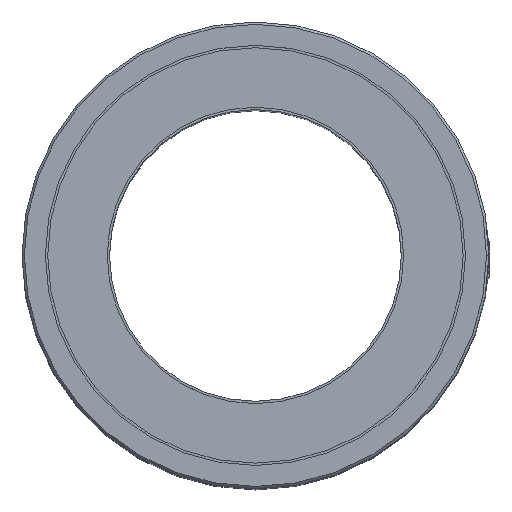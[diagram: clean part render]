
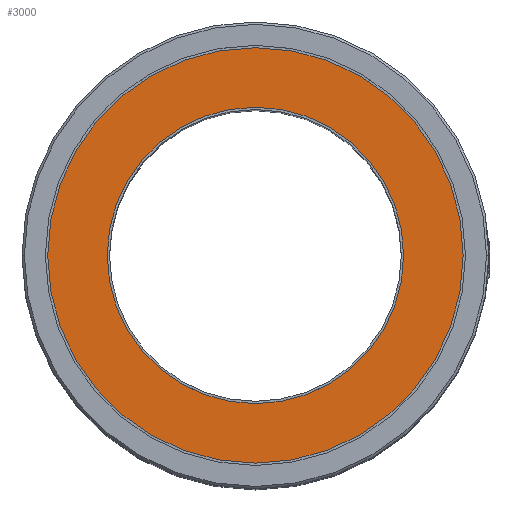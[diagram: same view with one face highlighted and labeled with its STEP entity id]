
A CAD part, top view. The second image highlights one B-rep face of the part: STEP entity #3000.
In plain terms, the highlighted planar face has unit normal (0, 0, 1).
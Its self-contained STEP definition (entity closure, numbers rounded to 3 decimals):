
#180 = VERTEX_POINT ( 'NONE', #3520 ) ;
#292 = CARTESIAN_POINT ( 'NONE',  ( 0., 0., 28.2 ) ) ;
#498 = ORIENTED_EDGE ( 'NONE', *, *, #8363, .F. ) ;
#607 = ORIENTED_EDGE ( 'NONE', *, *, #2321, .T. ) ;
#693 = CIRCLE ( 'NONE', #4941, 17.8 ) ;
#805 = CARTESIAN_POINT ( 'NONE',  ( 0., 0., 28.2 ) ) ;
#902 = CARTESIAN_POINT ( 'NONE',  ( -17.8, 0., 28.2 ) ) ;
#1228 = DIRECTION ( 'NONE',  ( 1., 0., 0. ) ) ;
#1381 = VERTEX_POINT ( 'NONE', #1528 ) ;
#1528 = CARTESIAN_POINT ( 'NONE',  ( 17.8, 0., 28.2 ) ) ;
#1680 = EDGE_CURVE ( 'NONE', #11934, #180, #7653, .T. ) ;
#1735 = DIRECTION ( 'NONE',  ( 1., 0., 0. ) ) ;
#1918 = EDGE_CURVE ( 'NONE', #5150, #1381, #693, .T. ) ;
#2209 = AXIS2_PLACEMENT_3D ( 'NONE', #8469, #2916, #9421 ) ;
#2321 = EDGE_CURVE ( 'NONE', #1381, #5150, #10262, .T. ) ;
#2661 = CARTESIAN_POINT ( 'NONE',  ( 0., 0., 28.2 ) ) ;
#2916 = DIRECTION ( 'NONE',  ( 0., 0., 1. ) ) ;
#3000 = ADVANCED_FACE ( 'NONE', ( #8930, #6439 ), #10585, .T. ) ;
#3144 = CARTESIAN_POINT ( 'NONE',  ( 0., 0., 28.2 ) ) ;
#3520 = CARTESIAN_POINT ( 'NONE',  ( -12.7, 0., 28.2 ) ) ;
#3602 = DIRECTION ( 'NONE',  ( 1., 0., 0. ) ) ;
#3786 = ORIENTED_EDGE ( 'NONE', *, *, #1680, .F. ) ;
#3920 = AXIS2_PLACEMENT_3D ( 'NONE', #292, #6772, #1228 ) ;
#4457 = AXIS2_PLACEMENT_3D ( 'NONE', #2661, #9156, #3602 ) ;
#4516 = ORIENTED_EDGE ( 'NONE', *, *, #1918, .T. ) ;
#4941 = AXIS2_PLACEMENT_3D ( 'NONE', #805, #7295, #1735 ) ;
#5019 = DIRECTION ( 'NONE',  ( 0., 0., 1. ) ) ;
#5150 = VERTEX_POINT ( 'NONE', #902 ) ;
#5404 = CARTESIAN_POINT ( 'NONE',  ( 12.7, 0., 28.2 ) ) ;
#5650 = CIRCLE ( 'NONE', #2209, 12.7 ) ;
#5848 = EDGE_LOOP ( 'NONE', ( #3786, #498 ) ) ;
#6439 = FACE_OUTER_BOUND ( 'NONE', #9971, .T. ) ;
#6483 = AXIS2_PLACEMENT_3D ( 'NONE', #3144, #5019, #11516 ) ;
#6772 = DIRECTION ( 'NONE',  ( 0., 0., 1. ) ) ;
#7295 = DIRECTION ( 'NONE',  ( 0., 0., 1. ) ) ;
#7653 = CIRCLE ( 'NONE', #3920, 12.7 ) ;
#8363 = EDGE_CURVE ( 'NONE', #180, #11934, #5650, .T. ) ;
#8469 = CARTESIAN_POINT ( 'NONE',  ( 0., 0., 28.2 ) ) ;
#8930 = FACE_BOUND ( 'NONE', #5848, .T. ) ;
#9156 = DIRECTION ( 'NONE',  ( 0., 0., 1. ) ) ;
#9421 = DIRECTION ( 'NONE',  ( 1., 0., 0. ) ) ;
#9971 = EDGE_LOOP ( 'NONE', ( #607, #4516 ) ) ;
#10262 = CIRCLE ( 'NONE', #4457, 17.8 ) ;
#10585 = PLANE ( 'NONE',  #6483 ) ;
#11516 = DIRECTION ( 'NONE',  ( 1., 0., 0. ) ) ;
#11934 = VERTEX_POINT ( 'NONE', #5404 ) ;
